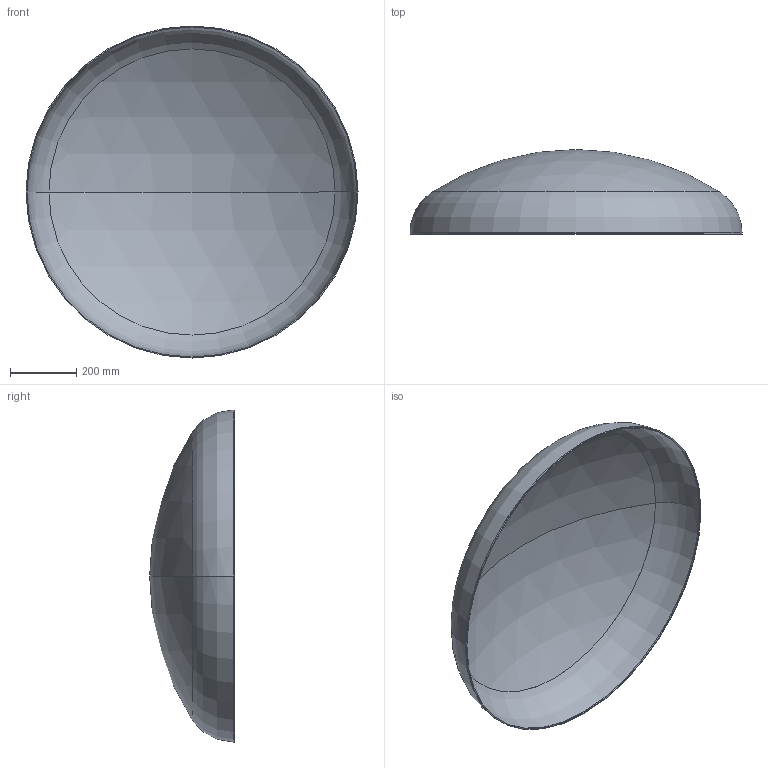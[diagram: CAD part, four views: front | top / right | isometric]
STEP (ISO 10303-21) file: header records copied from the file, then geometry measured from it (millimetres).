
FILE_DESCRIPTION (( 'STEP AP203' ), '1' );
FILE_NAME ('3D_R365_1000x3_173374700.STEP', '2024-07-16T07:36:08', ( '' ), ( '' ), 'SwSTEP 2.0', 'SolidWorks 2024', '' );
FILE_SCHEMA (( 'CONFIG_CONTROL_DESIGN' ));
Length unit declared in the file: millimetre
Products named in the file (1): 3D_R365_1000x3_173374700
Bounding box: 1000 x 255 x 1000 mm (x, y, z)
Volume: 3248005.7 mm3; surface area: 2174751.5 mm2
Topology: 1 solids, 1 shells, 13 faces, 24 edges, 14 vertices
Faces by surface type: sphere 4, torus 4, cylinder 4, plane 1
Entity records: 407 total; most frequent: DIRECTION 72, CARTESIAN_POINT 52, ORIENTED_EDGE 48, AXIS2_PLACEMENT_3D 34, EDGE_CURVE 24, CIRCLE 20, EDGE_LOOP 14, VERTEX_POINT 14
